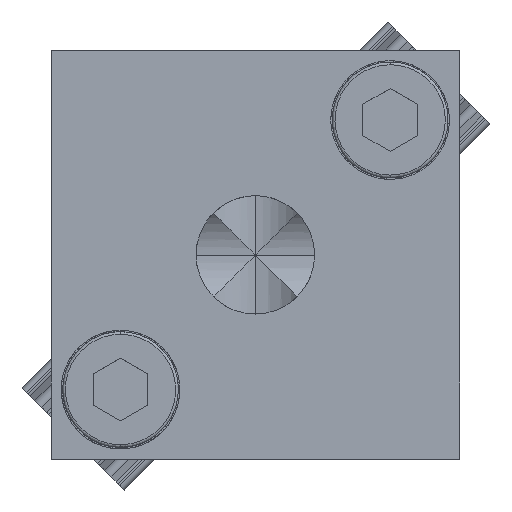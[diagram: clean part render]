
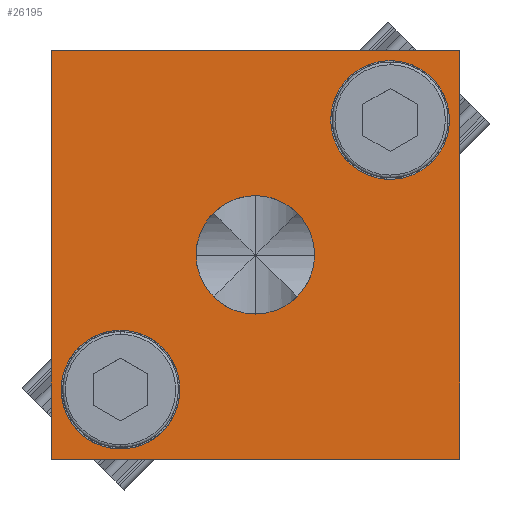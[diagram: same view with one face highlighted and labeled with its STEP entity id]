
A CAD part, top view. The second image highlights one B-rep face of the part: STEP entity #26195.
In plain terms, the highlighted planar face has unit normal (0, 0, 1).
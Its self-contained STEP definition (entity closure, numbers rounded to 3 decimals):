
#291 = CARTESIAN_POINT ( 'NONE',  ( -108.57, 6.171, 43.992 ) ) ;
#538 = AXIS2_PLACEMENT_3D ( 'NONE', #28622, #15631, #31154 ) ;
#602 = CARTESIAN_POINT ( 'NONE',  ( -78.57, 21.171, 43.992 ) ) ;
#926 = FACE_BOUND ( 'NONE', #27596, .T. ) ;
#1069 = VERTEX_POINT ( 'NONE', #10844 ) ;
#1269 = EDGE_CURVE ( 'NONE', #13409, #21568, #7750, .T. ) ;
#1560 = CARTESIAN_POINT ( 'NONE',  ( -93.57, 36.171, 43.992 ) ) ;
#1998 = ORIENTED_EDGE ( 'NONE', *, *, #5198, .T. ) ;
#2447 = CIRCLE ( 'NONE', #3855, 4.35 ) ;
#3270 = AXIS2_PLACEMENT_3D ( 'NONE', #8928, #25165, #6008 ) ;
#3394 = ORIENTED_EDGE ( 'NONE', *, *, #18509, .T. ) ;
#3817 = CARTESIAN_POINT ( 'NONE',  ( -89.22, 21.171, 43.992 ) ) ;
#3855 = AXIS2_PLACEMENT_3D ( 'NONE', #9702, #31738, #5271 ) ;
#4504 = PLANE ( 'NONE',  #10188 ) ;
#4958 = CARTESIAN_POINT ( 'NONE',  ( -81.07, 31.071, 43.992 ) ) ;
#4997 = AXIS2_PLACEMENT_3D ( 'NONE', #34538, #21216, #29389 ) ;
#5069 = FACE_OUTER_BOUND ( 'NONE', #15819, .T. ) ;
#5198 = EDGE_CURVE ( 'NONE', #25395, #5844, #12954, .T. ) ;
#5271 = DIRECTION ( 'NONE',  ( 1., 0., 0. ) ) ;
#5510 = EDGE_CURVE ( 'NONE', #34375, #8454, #8727, .T. ) ;
#5844 = VERTEX_POINT ( 'NONE', #291 ) ;
#6008 = DIRECTION ( 'NONE',  ( 1., 0., 0. ) ) ;
#6018 = EDGE_CURVE ( 'NONE', #8454, #25395, #7477, .T. ) ;
#7477 = LINE ( 'NONE', #1560, #21655 ) ;
#7569 = DIRECTION ( 'NONE',  ( 0., 0., -1. ) ) ;
#7750 = CIRCLE ( 'NONE', #538, 4.35 ) ;
#8454 = VERTEX_POINT ( 'NONE', #19725 ) ;
#8727 = LINE ( 'NONE', #602, #25844 ) ;
#8855 = FACE_BOUND ( 'NONE', #28126, .T. ) ;
#8928 = CARTESIAN_POINT ( 'NONE',  ( -103.469, 11.272, 43.992 ) ) ;
#9259 = DIRECTION ( 'NONE',  ( -1., 0., 0. ) ) ;
#9702 = CARTESIAN_POINT ( 'NONE',  ( -93.57, 21.171, 43.992 ) ) ;
#9760 = DIRECTION ( 'NONE',  ( 1., 0., 0. ) ) ;
#10188 = AXIS2_PLACEMENT_3D ( 'NONE', #25532, #17817, #9760 ) ;
#10844 = CARTESIAN_POINT ( 'NONE',  ( -106.069, 11.272, 43.992 ) ) ;
#11197 = CIRCLE ( 'NONE', #18773, 2.6 ) ;
#11463 = ORIENTED_EDGE ( 'NONE', *, *, #33936, .F. ) ;
#11677 = ORIENTED_EDGE ( 'NONE', *, *, #1269, .T. ) ;
#12038 = CIRCLE ( 'NONE', #4997, 2.6 ) ;
#12312 = LINE ( 'NONE', #23111, #20665 ) ;
#12598 = DIRECTION ( 'NONE',  ( 1., 0., 0. ) ) ;
#12800 = ORIENTED_EDGE ( 'NONE', *, *, #5510, .T. ) ;
#12832 = EDGE_CURVE ( 'NONE', #17344, #29450, #32382, .T. ) ;
#12893 = CARTESIAN_POINT ( 'NONE',  ( -97.92, 21.171, 43.992 ) ) ;
#12954 = LINE ( 'NONE', #32264, #28836 ) ;
#13409 = VERTEX_POINT ( 'NONE', #3817 ) ;
#13434 = DIRECTION ( 'NONE',  ( 0., 0., 1. ) ) ;
#13615 = DIRECTION ( 'NONE',  ( 0., -1., 0. ) ) ;
#13996 = ORIENTED_EDGE ( 'NONE', *, *, #12832, .F. ) ;
#15578 = CIRCLE ( 'NONE', #3270, 2.6 ) ;
#15631 = DIRECTION ( 'NONE',  ( 0., 0., -1. ) ) ;
#15819 = EDGE_LOOP ( 'NONE', ( #1998, #18003, #12800, #29553 ) ) ;
#16378 = CARTESIAN_POINT ( 'NONE',  ( -86.27, 31.071, 43.992 ) ) ;
#17276 = ORIENTED_EDGE ( 'NONE', *, *, #25833, .T. ) ;
#17344 = VERTEX_POINT ( 'NONE', #4958 ) ;
#17817 = DIRECTION ( 'NONE',  ( 0., 0., 1. ) ) ;
#18003 = ORIENTED_EDGE ( 'NONE', *, *, #30053, .T. ) ;
#18032 = CARTESIAN_POINT ( 'NONE',  ( -78.57, 6.171, 43.992 ) ) ;
#18212 = CARTESIAN_POINT ( 'NONE',  ( -100.869, 11.272, 43.992 ) ) ;
#18509 = EDGE_CURVE ( 'NONE', #21568, #13409, #2447, .T. ) ;
#18773 = AXIS2_PLACEMENT_3D ( 'NONE', #20762, #7569, #12598 ) ;
#19725 = CARTESIAN_POINT ( 'NONE',  ( -78.57, 36.171, 43.992 ) ) ;
#20665 = VECTOR ( 'NONE', #33553, 1000. ) ;
#20762 = CARTESIAN_POINT ( 'NONE',  ( -103.469, 11.272, 43.992 ) ) ;
#20934 = EDGE_LOOP ( 'NONE', ( #28891, #17276 ) ) ;
#21216 = DIRECTION ( 'NONE',  ( 0., 0., 1. ) ) ;
#21568 = VERTEX_POINT ( 'NONE', #12893 ) ;
#21655 = VECTOR ( 'NONE', #9259, 1000. ) ;
#23111 = CARTESIAN_POINT ( 'NONE',  ( -93.57, 6.171, 43.992 ) ) ;
#23933 = CARTESIAN_POINT ( 'NONE',  ( -83.67, 31.071, 43.992 ) ) ;
#24644 = DIRECTION ( 'NONE',  ( 1., 0., 0. ) ) ;
#24748 = FACE_BOUND ( 'NONE', #20934, .T. ) ;
#24839 = AXIS2_PLACEMENT_3D ( 'NONE', #23933, #13434, #24644 ) ;
#25165 = DIRECTION ( 'NONE',  ( 0., 0., -1. ) ) ;
#25395 = VERTEX_POINT ( 'NONE', #28804 ) ;
#25532 = CARTESIAN_POINT ( 'NONE',  ( -108.57, 6.171, 43.992 ) ) ;
#25833 = EDGE_CURVE ( 'NONE', #1069, #31461, #15578, .T. ) ;
#25844 = VECTOR ( 'NONE', #29663, 1000. ) ;
#26195 = ADVANCED_FACE ( 'NONE', ( #24748, #8855, #926, #5069 ), #4504, .T. ) ;
#27596 = EDGE_LOOP ( 'NONE', ( #11677, #3394 ) ) ;
#28126 = EDGE_LOOP ( 'NONE', ( #13996, #11463 ) ) ;
#28622 = CARTESIAN_POINT ( 'NONE',  ( -93.57, 21.171, 43.992 ) ) ;
#28804 = CARTESIAN_POINT ( 'NONE',  ( -108.57, 36.171, 43.992 ) ) ;
#28836 = VECTOR ( 'NONE', #13615, 1000. ) ;
#28891 = ORIENTED_EDGE ( 'NONE', *, *, #31486, .T. ) ;
#29389 = DIRECTION ( 'NONE',  ( 1., 0., 0. ) ) ;
#29450 = VERTEX_POINT ( 'NONE', #16378 ) ;
#29553 = ORIENTED_EDGE ( 'NONE', *, *, #6018, .T. ) ;
#29663 = DIRECTION ( 'NONE',  ( 0., 1., 0. ) ) ;
#30053 = EDGE_CURVE ( 'NONE', #5844, #34375, #12312, .T. ) ;
#31154 = DIRECTION ( 'NONE',  ( 1., 0., 0. ) ) ;
#31461 = VERTEX_POINT ( 'NONE', #18212 ) ;
#31486 = EDGE_CURVE ( 'NONE', #31461, #1069, #11197, .T. ) ;
#31738 = DIRECTION ( 'NONE',  ( 0., 0., -1. ) ) ;
#32264 = CARTESIAN_POINT ( 'NONE',  ( -108.57, 21.171, 43.992 ) ) ;
#32382 = CIRCLE ( 'NONE', #24839, 2.6 ) ;
#33553 = DIRECTION ( 'NONE',  ( 1., 0., 0. ) ) ;
#33936 = EDGE_CURVE ( 'NONE', #29450, #17344, #12038, .T. ) ;
#34375 = VERTEX_POINT ( 'NONE', #18032 ) ;
#34538 = CARTESIAN_POINT ( 'NONE',  ( -83.67, 31.071, 43.992 ) ) ;
